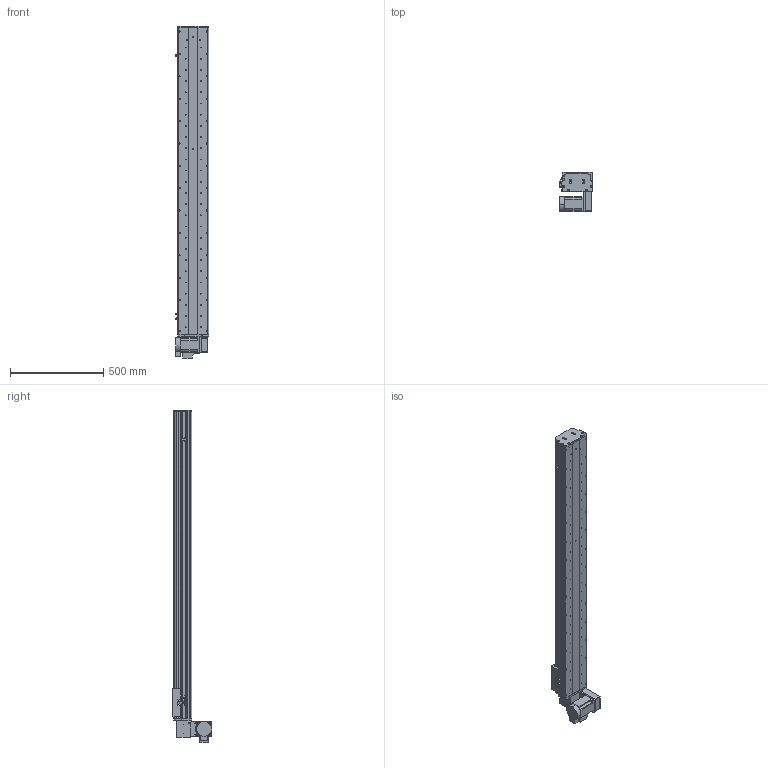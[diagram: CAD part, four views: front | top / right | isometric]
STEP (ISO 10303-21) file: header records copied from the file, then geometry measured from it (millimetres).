
FILE_DESCRIPTION (( 'STEP AP214' ), '1' );
FILE_NAME ('KSD165B-S1400-MRD-CM .STEP', '2017-10-17T00:54:25', ( '微软用户' ), ( '微软中国' ), 'SwSTEP 2.0', 'SolidWorks 2014', '' );
FILE_SCHEMA (( 'AUTOMOTIVE_DESIGN' ));
Length unit declared in the file: millimetre
Products named in the file (17): KSD165耀郪-ヶ傷啣1-肮祭湍; KSD165模组-后端板1-同步带; KSD165模组-同步带滑动座-最新版; KSD165B-S1400-MRD-CM ; 130宽模组马达安装板连板上下折丝杆同步带; 130宽模组保护罩上下左右折-同步带; HTPA26S5M250-A-H8 750W萇儂蚚; HTPA26S5M250-A-H8 400W萇儂蚚 ; KSD165模组-同步带防尘盖1-1400行程; KSD165模组同步带底板-1400行程; 拸秶雄ん750W侜督萇儂; 165宽马达安装板同步带右; U倰嫖萇假蚾璃; U倰嫖萇EEㄜSX672; 覜茼え68遵圉猾敕; KSD165模组-同步带-防撞垫2; KSD165模组同步带-防撞垫1
Assembly tree (20 placements, depth 2):
  KSD165B-S1400-MRD-CM 
    KSD165模组-同步带滑动座-最新版
    KSD165模组-后端板1-同步带
    KSD165耀郪-ヶ傷啣1-肮祭湍
    KSD165模组同步带-防撞垫1
    KSD165模组-同步带-防撞垫2
    覜茼え68遵圉猾敕
    U倰嫖萇EEㄜSX672  x3
    U倰嫖萇假蚾璃  x3
    165宽马达安装板同步带右
    拸秶雄ん750W侜督萇儂
    KSD165模组同步带底板-1400行程
    KSD165模组-同步带防尘盖1-1400行程
    HTPA26S5M250-A-H8 400W萇儂蚚 
    HTPA26S5M250-A-H8 750W萇儂蚚
    130宽模组保护罩上下左右折-同步带
    130宽模组马达安装板连板上下折丝杆同步带
Bounding box: 178.7 x 210 x 1780.5 mm (x, y, z)
Volume: 9723517.4 mm3; surface area: 2264898.5 mm2
Topology: 21 solids, 21 shells, 2029 faces, 5742 edges, 3752 vertices
Faces by surface type: cylinder 1323, plane 594, cone 112
Entity records: 66572 total; most frequent: CARTESIAN_POINT 13648, DIRECTION 10882, ORIENTED_EDGE 10144, EDGE_CURVE 5072, AXIS2_PLACEMENT_3D 4280, VERTEX_POINT 3344, CIRCLE 2448, VECTOR 2322
